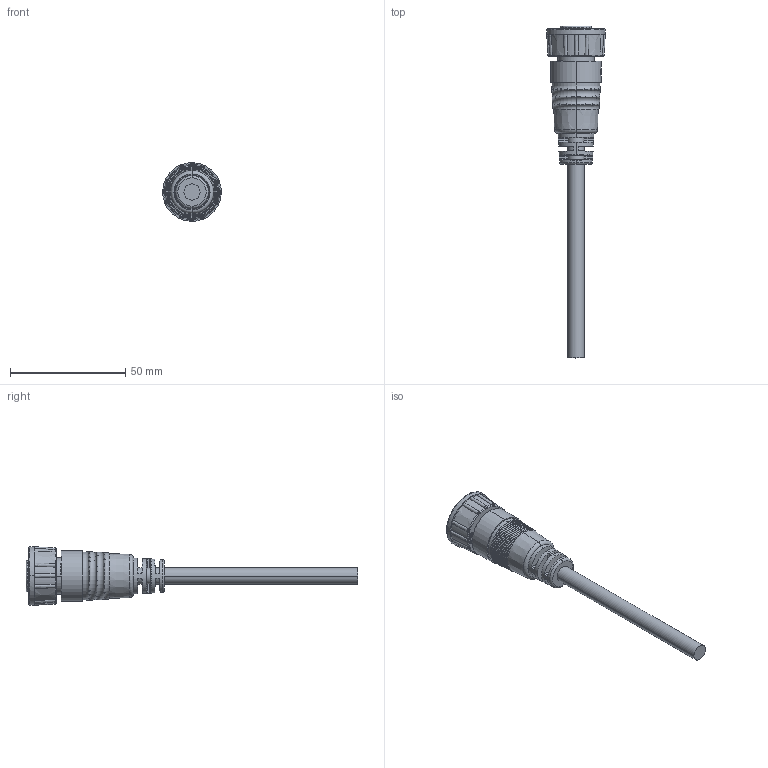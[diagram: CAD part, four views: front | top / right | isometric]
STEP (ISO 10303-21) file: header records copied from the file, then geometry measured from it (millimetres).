
FILE_DESCRIPTION((''),'2;1');
FILE_NAME('ACD-14AFFM-SL7AXX_SW0002','2016-06-23T',('KS7307'),(''),'PRO/ENGINEER BY PARAMETRIC TECHNOLOGY CORPORATION, 2013050','PRO/ENGINEER BY PARAMETRIC TECHNOLOGY CORPORATION, 2013050','');
FILE_SCHEMA(('CONFIG_CONTROL_DESIGN'));
Length unit declared in the file: millimetre
Products named in the file (1): ACD-14AFFM-SL7AXX_SW0002
Bounding box: 25.4 x 144 x 25.4 mm (x, y, z)
Volume: 19873.9 mm3; surface area: 9793.3 mm2
Topology: 2 solids, 2 shells, 592 faces, 1560 edges, 978 vertices
Faces by surface type: plane 207, cylinder 122, bspline 85, torus 64, extrusion 62, cone 51, sphere 1
Entity records: 35831 total; most frequent: CARTESIAN_POINT 19063, ORIENTED_EDGE 3044, DIRECTION 2215, EDGE_CURVE 1522, VERTEX_POINT 978, AXIS2_PLACEMENT_3D 831, B_SPLINE_CURVE_WITH_KNOTS 707, EDGE_LOOP 642
